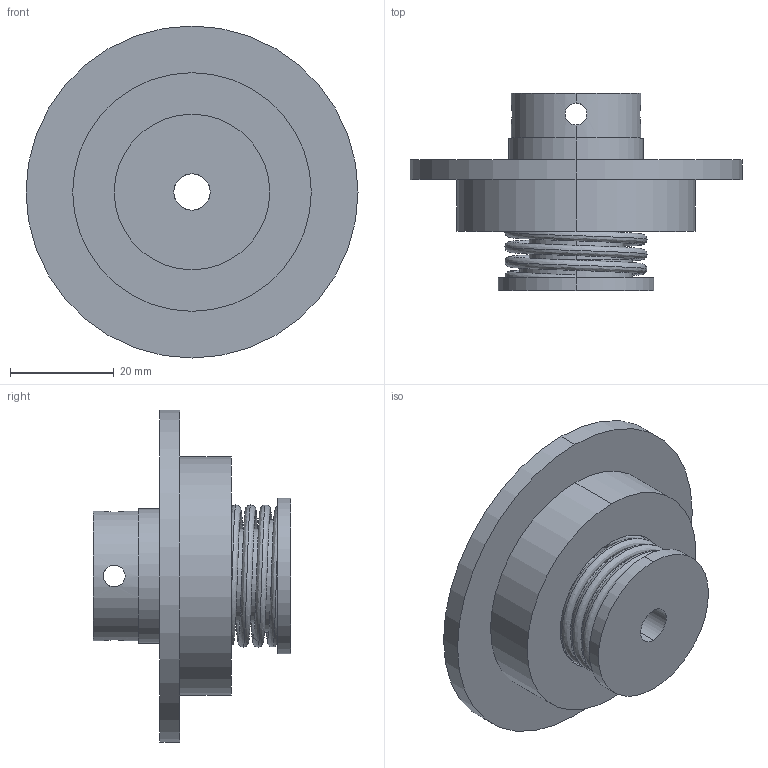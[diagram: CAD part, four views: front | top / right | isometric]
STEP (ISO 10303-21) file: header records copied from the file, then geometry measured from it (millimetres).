
FILE_DESCRIPTION (( 'STEP AP203' ), '1' );
FILE_NAME ('ST4F-010C.STEP', '2009-09-30T17:45:36', ( 'USER' ), ( 'HOME' ), 'SwSTEP 2.0', 'SolidWorks 2007', '' );
FILE_SCHEMA (( 'CONFIG_CONTROL_DESIGN' ));
Length unit declared in the file: millimetre
Products named in the file (1): ST4F-010C
Bounding box: 64 x 38 x 64 mm (x, y, z)
Volume: 36727.6 mm3; surface area: 15577 mm2
Topology: 2 solids, 2 shells, 58 faces, 142 edges, 88 vertices
Faces by surface type: cylinder 36, plane 12, cone 8, bspline 2
Entity records: 2951 total; most frequent: CARTESIAN_POINT 1533, DIRECTION 282, ORIENTED_EDGE 268, EDGE_CURVE 134, AXIS2_PLACEMENT_3D 117, VERTEX_POINT 88, EDGE_LOOP 76, CIRCLE 60
